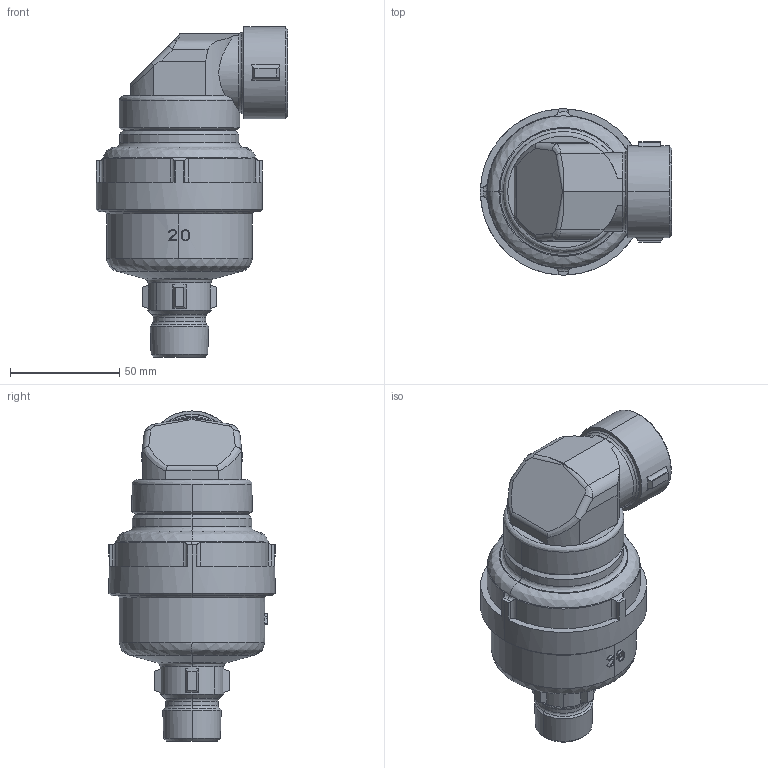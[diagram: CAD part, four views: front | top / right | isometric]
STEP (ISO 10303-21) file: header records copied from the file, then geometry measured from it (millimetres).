
FILE_DESCRIPTION( (''), '2;1');
FILE_NAME ('PC1056.128.TAV4(20A)_23416.stp','2024-07-25T11:09:27',(''),(''),'spGate 19.8.4 (****-****-****-****)','','');
FILE_SCHEMA (('AUTOMOTIVE_DESIGN'));
Length unit declared in the file: millimetre
Bounding box: 87.5 x 76 x 151 mm (x, y, z)
Volume: 356713.6 mm3; surface area: 37573.2 mm2
Topology: 1 solids, 1 shells, 200 faces, 490 edges, 307 vertices
Faces by surface type: bspline 72, plane 71, cylinder 57
Entity records: 11618 total; most frequent: CARTESIAN_POINT 3589, ORIENTED_EDGE 980, DIRECTION 699, COLOUR_RGB 691, PRESENTATION_STYLE_ASSIGNMENT 691, STYLED_ITEM 691, EDGE_CURVE 490, DRAUGHTING_PRE_DEFINED_CURVE_FONT 490
